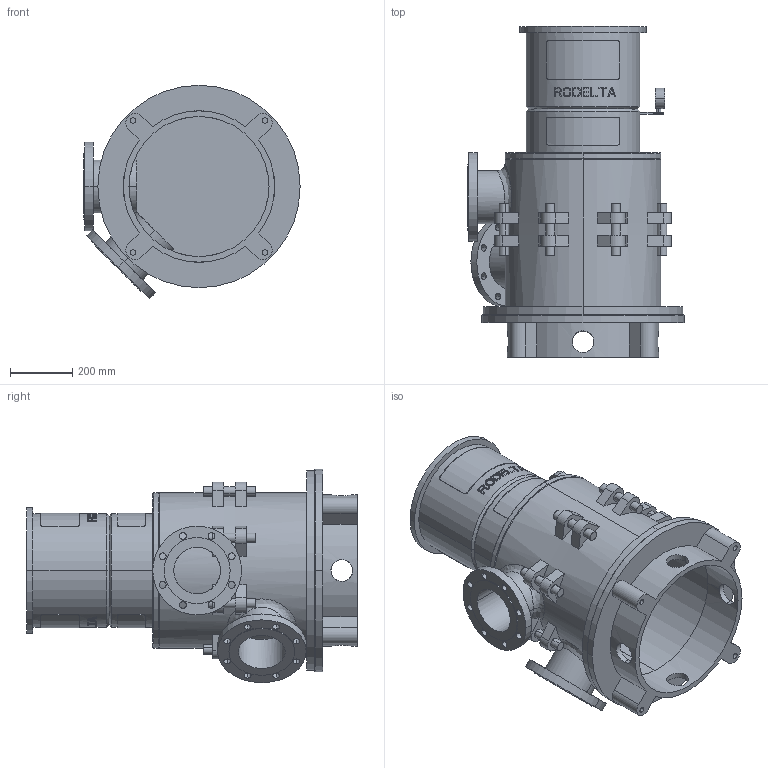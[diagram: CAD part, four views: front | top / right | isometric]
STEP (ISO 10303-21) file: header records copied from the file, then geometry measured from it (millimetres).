
FILE_DESCRIPTION((''),'2;1');
FILE_NAME('LS6_1TR_0GR_TOT_30KW','2023-08-11T',('Lyritlocal'),(''),'PRO/ENGINEER BY PARAMETRIC TECHNOLOGY CORPORATION, 2016360','PRO/ENGINEER BY PARAMETRIC TECHNOLOGY CORPORATION, 2016360','');
FILE_SCHEMA(('CONFIG_CONTROL_DESIGN'));
Length unit declared in the file: millimetre
Products named in the file (1): LS6_1TR_0GR_TOT_30KW
Bounding box: 695 x 1063 x 685.27 mm (x, y, z)
Volume: 36733830.8 mm3; surface area: 4647416.9 mm2
Topology: 3 solids, 7 shells, 684 faces, 1767 edges, 1174 vertices
Faces by surface type: plane 422, cylinder 242, cone 12, bspline 8
Entity records: 22768 total; most frequent: CARTESIAN_POINT 6156, ORIENTED_EDGE 3518, DIRECTION 3273, EDGE_CURVE 1767, AXIS2_PLACEMENT_3D 1237, VERTEX_POINT 1174, EDGE_LOOP 829, VECTOR 799
